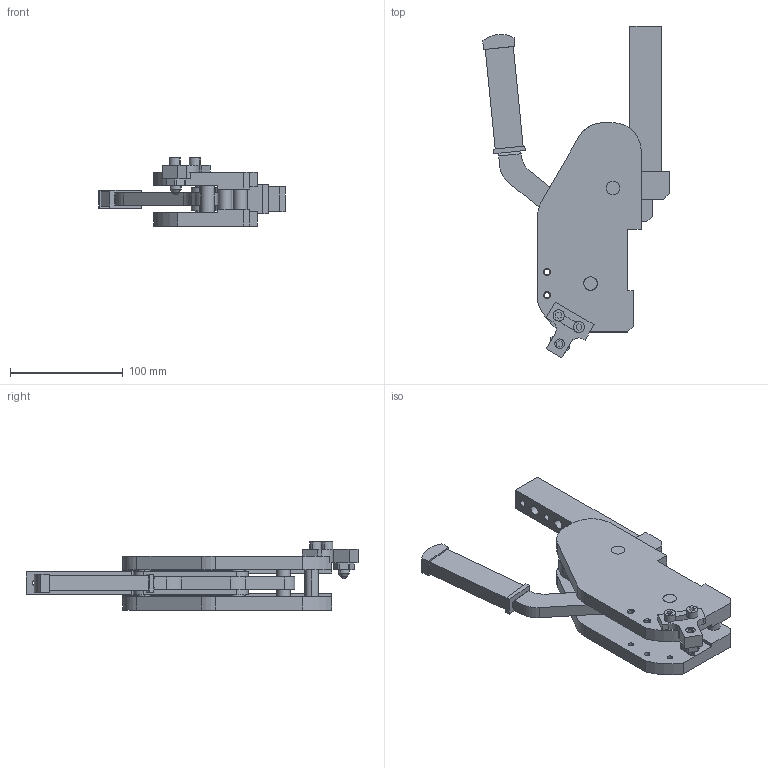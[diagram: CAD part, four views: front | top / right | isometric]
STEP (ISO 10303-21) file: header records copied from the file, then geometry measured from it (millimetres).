
FILE_DESCRIPTION (( 'STEP AP214' ), '1' );
FILE_NAME ('mc_o1c_ld.STEP', '2014-03-17T09:16:00', ( 'vep' ), ( 'TOSHIBA' ), 'SwSTEP 2.0', 'SolidWorks 2013', '' );
FILE_SCHEMA (( 'AUTOMOTIVE_DESIGN' ));
Length unit declared in the file: millimetre
Products named in the file (7): mc_o1c_ld; gruppo_montante_mc; leva_mc; biella_leva_mc_; biella_mc; staffa_fermo_leva_mc; leva_v1c_o1c_mc
Assembly tree (7 placements, depth 2):
  mc_o1c_ld
    gruppo_montante_mc
    leva_mc
    biella_leva_mc_
    biella_mc  x2
    staffa_fermo_leva_mc
    leva_v1c_o1c_mc
Bounding box: 165.82 x 295.12 x 60.7 mm (x, y, z)
Volume: 586357.9 mm3; surface area: 144891.3 mm2
Topology: 7 solids, 7 shells, 380 faces, 965 edges, 609 vertices
Faces by surface type: plane 169, cylinder 151, cone 58, sphere 2
Entity records: 11960 total; most frequent: DIRECTION 1986, CARTESIAN_POINT 1860, ORIENTED_EDGE 1804, EDGE_CURVE 902, AXIS2_PLACEMENT_3D 709, VERTEX_POINT 583, VECTOR 568, LINE 568
